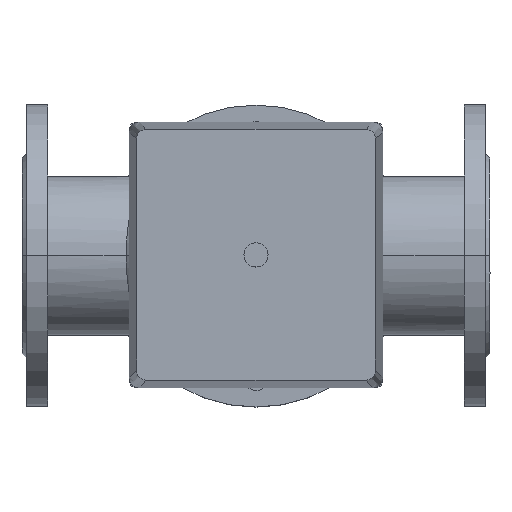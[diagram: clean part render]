
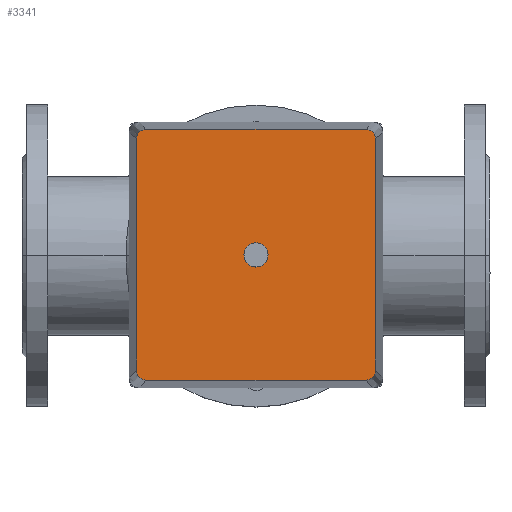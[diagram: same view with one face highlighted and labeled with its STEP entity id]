
A CAD part, top view. The second image highlights one B-rep face of the part: STEP entity #3341.
In plain terms, the highlighted planar face has unit normal (0, 0, 1).
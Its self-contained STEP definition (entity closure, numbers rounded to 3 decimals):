
#296=LINE('',#5742,#504);
#297=LINE('',#5746,#505);
#298=LINE('',#5750,#506);
#299=LINE('',#5754,#507);
#504=VECTOR('',#4608,304.8);
#505=VECTOR('',#4611,304.8);
#506=VECTOR('',#4614,304.8);
#507=VECTOR('',#4617,304.8);
#847=FACE_OUTER_BOUND('',#1077,.T.);
#1077=EDGE_LOOP('',(#2722,#2723,#2724,#2725,#2726,#2727,#2728,#2729));
#1304=CIRCLE('',#3719,6.);
#1305=CIRCLE('',#3720,6.);
#1306=CIRCLE('',#3721,6.);
#1307=CIRCLE('',#3722,6.);
#1584=VERTEX_POINT('',#5740);
#1585=VERTEX_POINT('',#5741);
#1586=VERTEX_POINT('',#5743);
#1587=VERTEX_POINT('',#5745);
#1588=VERTEX_POINT('',#5747);
#1589=VERTEX_POINT('',#5749);
#1590=VERTEX_POINT('',#5751);
#1591=VERTEX_POINT('',#5753);
#1978=EDGE_CURVE('',#1584,#1585,#296,.T.);
#1979=EDGE_CURVE('',#1585,#1586,#1304,.T.);
#1980=EDGE_CURVE('',#1586,#1587,#297,.T.);
#1981=EDGE_CURVE('',#1587,#1588,#1305,.T.);
#1982=EDGE_CURVE('',#1588,#1589,#298,.T.);
#1983=EDGE_CURVE('',#1589,#1590,#1306,.T.);
#1984=EDGE_CURVE('',#1590,#1591,#299,.T.);
#1985=EDGE_CURVE('',#1591,#1584,#1307,.T.);
#2722=ORIENTED_EDGE('',*,*,#1978,.T.);
#2723=ORIENTED_EDGE('',*,*,#1979,.T.);
#2724=ORIENTED_EDGE('',*,*,#1980,.T.);
#2725=ORIENTED_EDGE('',*,*,#1981,.T.);
#2726=ORIENTED_EDGE('',*,*,#1982,.T.);
#2727=ORIENTED_EDGE('',*,*,#1983,.T.);
#2728=ORIENTED_EDGE('',*,*,#1984,.T.);
#2729=ORIENTED_EDGE('',*,*,#1985,.T.);
#3029=PLANE('',#3718);
#3341=ADVANCED_FACE('',(#847),#3029,.T.);
#3718=AXIS2_PLACEMENT_3D('',#5739,#4606,#4607);
#3719=AXIS2_PLACEMENT_3D('',#5744,#4609,#4610);
#3720=AXIS2_PLACEMENT_3D('',#5748,#4612,#4613);
#3721=AXIS2_PLACEMENT_3D('',#5752,#4615,#4616);
#3722=AXIS2_PLACEMENT_3D('',#5755,#4618,#4619);
#4606=DIRECTION('center_axis',(0.,0.,1.));
#4607=DIRECTION('ref_axis',(0.,-1.,0.));
#4608=DIRECTION('',(0.,-1.,0.));
#4609=DIRECTION('center_axis',(0.,0.,1.));
#4610=DIRECTION('ref_axis',(1.,0.,0.));
#4611=DIRECTION('',(1.,0.,0.));
#4612=DIRECTION('center_axis',(0.,0.,1.));
#4613=DIRECTION('ref_axis',(1.,0.,0.));
#4614=DIRECTION('',(0.,1.,0.));
#4615=DIRECTION('center_axis',(0.,0.,1.));
#4616=DIRECTION('ref_axis',(1.,0.,0.));
#4617=DIRECTION('',(-1.,0.,0.));
#4618=DIRECTION('center_axis',(0.,0.,1.));
#4619=DIRECTION('ref_axis',(1.,0.,0.));
#5739=CARTESIAN_POINT('Origin',(0.,0.,
265.));
#5740=CARTESIAN_POINT('',(-83.,73.,265.));
#5741=CARTESIAN_POINT('',(-83.,-73.,265.));
#5742=CARTESIAN_POINT('',(-83.,-73.,265.));
#5743=CARTESIAN_POINT('',(-77.,-79.,265.));
#5744=CARTESIAN_POINT('Origin',(-77.,-73.,265.));
#5745=CARTESIAN_POINT('',(77.,-79.,265.));
#5746=CARTESIAN_POINT('',(77.,-79.,265.));
#5747=CARTESIAN_POINT('',(83.,-73.,265.));
#5748=CARTESIAN_POINT('Origin',(77.,-73.,265.));
#5749=CARTESIAN_POINT('',(83.,73.,265.));
#5750=CARTESIAN_POINT('',(83.,73.,265.));
#5751=CARTESIAN_POINT('',(77.,79.,265.));
#5752=CARTESIAN_POINT('Origin',(77.,73.,265.));
#5753=CARTESIAN_POINT('',(-77.,79.,265.));
#5754=CARTESIAN_POINT('',(-77.,79.,265.));
#5755=CARTESIAN_POINT('Origin',(-77.,73.,265.));
